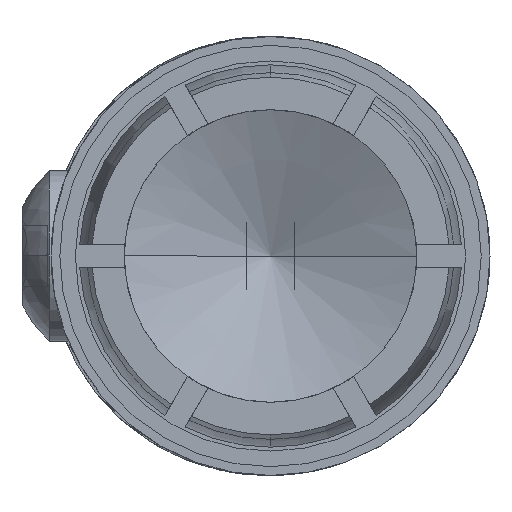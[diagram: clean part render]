
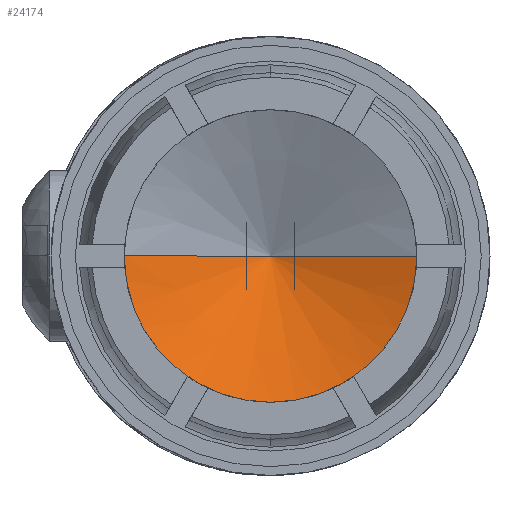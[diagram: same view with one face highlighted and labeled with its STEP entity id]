
A CAD part, left-side view. The second image highlights one B-rep face of the part: STEP entity #24174.
In plain terms, the highlighted conical face has half-angle 67.5 degrees and reference radius 2414.21 mm.
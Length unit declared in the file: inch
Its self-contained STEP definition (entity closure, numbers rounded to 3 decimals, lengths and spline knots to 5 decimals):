
#604 = DIRECTION ( 'NONE',  ( -0.383, -0.924, 0. ) ) ;
#760 = AXIS2_PLACEMENT_3D ( 'NONE', #3659, #17425, #5667 ) ;
#2035 = LINE ( 'NONE', #16563, #4299 ) ;
#2628 = ORIENTED_EDGE ( 'NONE', *, *, #13236, .F. ) ;
#3659 = CARTESIAN_POINT ( 'NONE',  ( -0.1875, 0., 0. ) ) ;
#4022 = VERTEX_POINT ( 'NONE', #7202 ) ;
#4299 = VECTOR ( 'NONE', #18426, 39.37008 ) ;
#5667 = DIRECTION ( 'NONE',  ( 0., 1., 0. ) ) ;
#7202 = CARTESIAN_POINT ( 'NONE',  ( -0.03217, 0., 0. ) ) ;
#7529 = CARTESIAN_POINT ( 'NONE',  ( -0.1875, -0.375, 0. ) ) ;
#8598 = VERTEX_POINT ( 'NONE', #7529 ) ;
#11305 = EDGE_CURVE ( 'NONE', #8598, #18044, #14688, .T. ) ;
#12867 = ORIENTED_EDGE ( 'NONE', *, *, #11305, .F. ) ;
#13236 = EDGE_CURVE ( 'NONE', #4022, #8598, #20964, .T. ) ;
#13270 = EDGE_CURVE ( 'NONE', #4022, #18044, #2035, .T. ) ;
#13583 = DIRECTION ( 'NONE',  ( 0., -1., 0. ) ) ;
#14326 = CONICAL_SURFACE ( 'NONE', #19899, 95.04778, 1.178 ) ;
#14688 = CIRCLE ( 'NONE', #760, 0.375 ) ;
#14901 = VECTOR ( 'NONE', #604, 39.37008 ) ;
#16563 = CARTESIAN_POINT ( 'NONE',  ( -0.03217, 0., 0. ) ) ;
#17288 = DIRECTION ( 'NONE',  ( -1., 0., 0. ) ) ;
#17425 = DIRECTION ( 'NONE',  ( 1., 0., 0. ) ) ;
#18044 = VERTEX_POINT ( 'NONE', #20091 ) ;
#18426 = DIRECTION ( 'NONE',  ( -0.383, 0.924, 0. ) ) ;
#19899 = AXIS2_PLACEMENT_3D ( 'NONE', #20996, #17288, #13583 ) ;
#20091 = CARTESIAN_POINT ( 'NONE',  ( -0.1875, 0.375, 0. ) ) ;
#20185 = CARTESIAN_POINT ( 'NONE',  ( -0.03217, 0., 0. ) ) ;
#20589 = EDGE_LOOP ( 'NONE', ( #2628, #21362, #12867 ) ) ;
#20964 = LINE ( 'NONE', #20185, #14901 ) ;
#20996 = CARTESIAN_POINT ( 'NONE',  ( -39.40225, 0., 0. ) ) ;
#21362 = ORIENTED_EDGE ( 'NONE', *, *, #13270, .T. ) ;
#22094 = FACE_OUTER_BOUND ( 'NONE', #20589, .T. ) ;
#24174 = ADVANCED_FACE ( 'NONE', ( #22094 ), #14326, .F. ) ;
